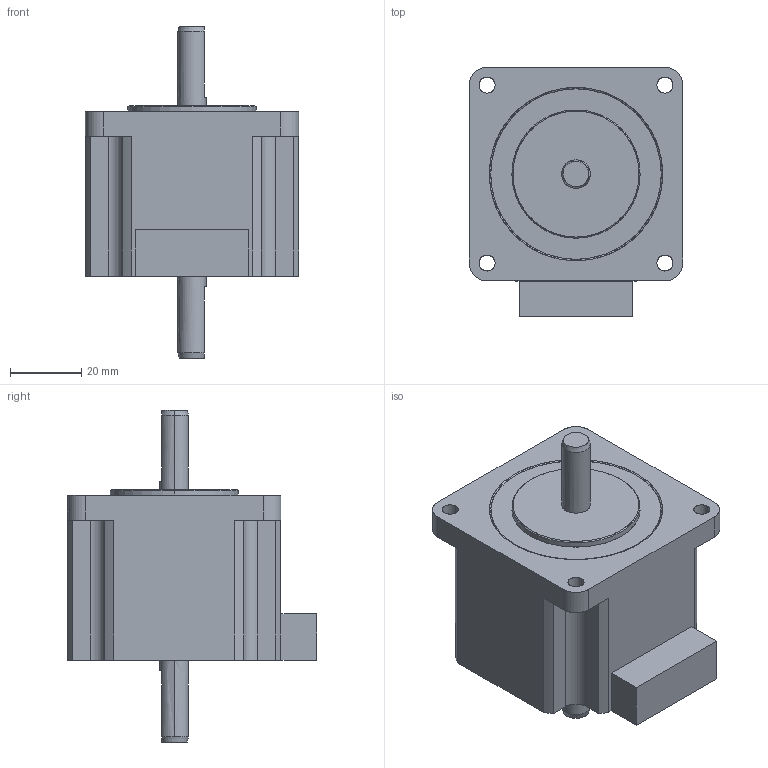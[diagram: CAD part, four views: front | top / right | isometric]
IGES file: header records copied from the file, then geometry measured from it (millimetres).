
Start section: SolidWorks IGES file using analytic representation for surfaces
Global section: file name: C:\Users\7666\Desktop\PMSA-U60D1D_3D\PMSA-U60D1D_3D.IGS; native system: SolidWorks 2014; preprocessor: SolidWorks 2014; author: 7666; date: 170131.164509; units: millimetre
Bounding box: 60 x 70 x 93.3 mm (x, y, z)
Surface area: 20065.2 mm2 (no closed solid volume)
Topology: 0 solids, 0 shells, 73 faces, 1133 edges, 1133 vertices
Faces by surface type: revolution 39, bspline 34
